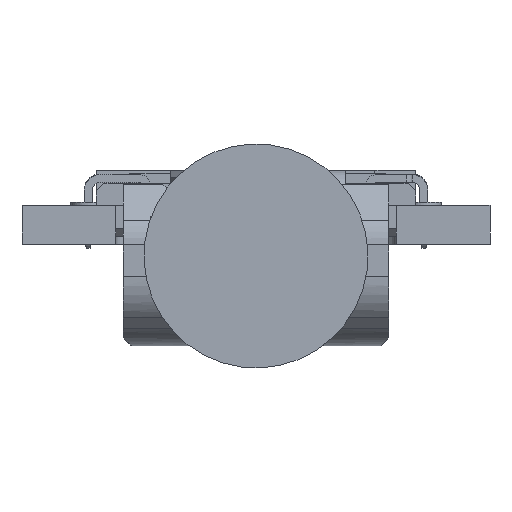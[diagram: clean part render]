
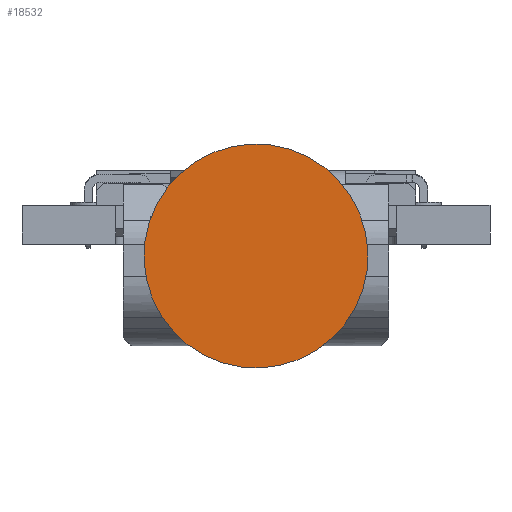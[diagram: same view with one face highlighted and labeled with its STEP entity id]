
A CAD part, front view. The second image highlights one B-rep face of the part: STEP entity #18532.
In plain terms, the highlighted planar face has unit normal (0, -1, 0) as drawn and (1, 0, 0) by its records, which use the part's own axes.
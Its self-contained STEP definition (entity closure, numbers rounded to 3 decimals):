
#74 = PLANE ( 'NONE',  #17512 ) ;
#131 = AXIS2_PLACEMENT_3D ( 'NONE', #20615, #7409, #7614 ) ;
#1297 = DIRECTION ( 'NONE',  ( 0., 0., -1. ) ) ;
#2213 = EDGE_LOOP ( 'NONE', ( #15392, #13567 ) ) ;
#2216 = VERTEX_POINT ( 'NONE', #12869 ) ;
#3067 = FACE_OUTER_BOUND ( 'NONE', #2213, .T. ) ;
#4638 = CARTESIAN_POINT ( 'NONE',  ( 16.396, 2.85, -2.85 ) ) ;
#6627 = DIRECTION ( 'NONE',  ( 0., 0., -1. ) ) ;
#6839 = CIRCLE ( 'NONE', #131, 2.872 ) ;
#7409 = DIRECTION ( 'NONE',  ( 1., 0., 0. ) ) ;
#7538 = VERTEX_POINT ( 'NONE', #15874 ) ;
#7614 = DIRECTION ( 'NONE',  ( 0., 0., -1. ) ) ;
#9695 = CARTESIAN_POINT ( 'NONE',  ( 16.396, 6.855, -4.198 ) ) ;
#12869 = CARTESIAN_POINT ( 'NONE',  ( 16.396, 2.85, -5.722 ) ) ;
#13567 = ORIENTED_EDGE ( 'NONE', *, *, #16191, .T. ) ;
#13901 = EDGE_CURVE ( 'NONE', #2216, #7538, #6839, .T. ) ;
#15047 = AXIS2_PLACEMENT_3D ( 'NONE', #4638, #16032, #1297 ) ;
#15392 = ORIENTED_EDGE ( 'NONE', *, *, #13901, .T. ) ;
#15874 = CARTESIAN_POINT ( 'NONE',  ( 16.396, 2.85, 0.022 ) ) ;
#16032 = DIRECTION ( 'NONE',  ( 1., 0., 0. ) ) ;
#16191 = EDGE_CURVE ( 'NONE', #7538, #2216, #17208, .T. ) ;
#17208 = CIRCLE ( 'NONE', #15047, 2.872 ) ;
#17512 = AXIS2_PLACEMENT_3D ( 'NONE', #9695, #19472, #6627 ) ;
#18532 = ADVANCED_FACE ( 'NONE', ( #3067 ), #74, .T. ) ;
#19472 = DIRECTION ( 'NONE',  ( 1., 0., 0. ) ) ;
#20615 = CARTESIAN_POINT ( 'NONE',  ( 16.396, 2.85, -2.85 ) ) ;
